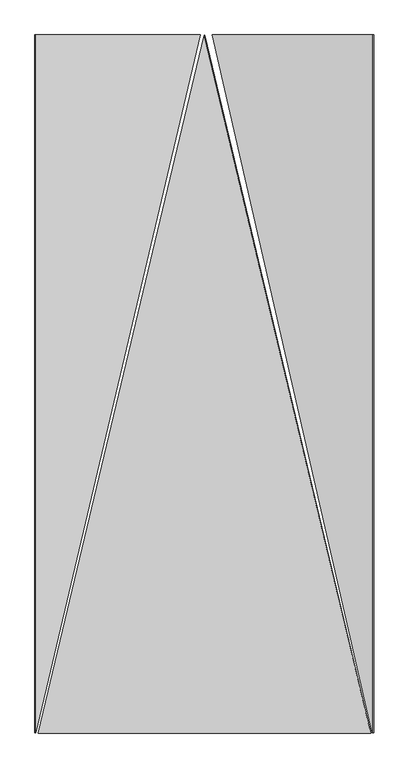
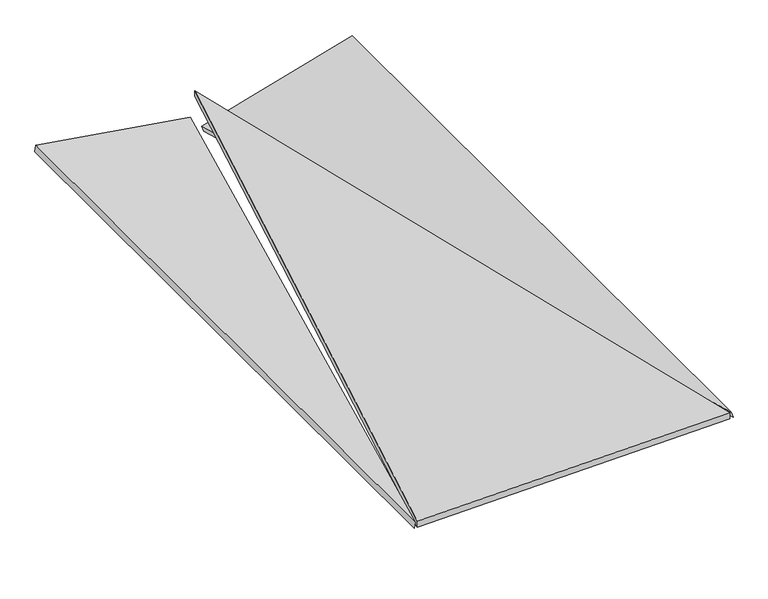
"""IFC4 building model written with IfcOpenShell, lengths in millimetres: proxy geometry, panel sufitowy 6 : panel sufitowy 6."""

from ifc_helpers import new_model, si_unit, frame, origin, place, context, project, spatial, polyline, outline, extrude, source, transform, mapped, element, save


def generic_models_667b148d(model_context):
    return source(origin(), model_context, "Body", "SweptSolid", [
        extrude(outline(polyline([(-900.9098917, 1e-07), (1006.1909889, 962.7191946), (1235.4098448, 0.0), (-900.9098917, 1e-07)])), frame((551.8753506, 1457.4151922, 1194.2927704), z_axis=(-0.017452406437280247, 0.0, 0.9998476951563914), x_axis=(-0.23158525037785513, -0.9728062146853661, -0.0040423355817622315)), (0.0, 0.0, 1.0), 20.0),
        extrude(outline(polyline([(-127.5, 0.0), (-127.5, -2079.0), (-622.5, 0.0), (-127.5, 0.0)])), frame((1387.7172487, 2335.0, 1241.8869), z_axis=(-0.2756373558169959, 0.0, 0.9612616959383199), x_axis=(0.9612616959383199, 0.0, 0.2756373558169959)), (0.0, 0.0, 1.0), 20.0),
        extrude(outline(polyline([(-127.5, 0.0), (-622.5, 0.0), (-127.5, 2079.0), (-127.5, 0.0)])), frame((129.379947, 2335.0, 1209.0616009), z_axis=(0.1564344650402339, 0.0, 0.9876883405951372), x_axis=(-0.9876883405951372, 0.0, 0.1564344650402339)), (0.0, 0.0, 1.0), 20.0),
    ])


if __name__ == "__main__":
    model = new_model("IFC4")
    model_context = context("Model", 3, world=origin())
    ifc_project = project(units=[si_unit("LENGTHUNIT", "METRE", prefix="MILLI")], contexts=[model_context])
    site = spatial("IfcSite", under=ifc_project)
    building = spatial("IfcBuilding", under=site)
    placement = place(None, origin())
    generic_models_shape = generic_models_667b148d(model_context)
    element("IfcBuildingElementProxy", 1, Name="panel sufitowy 6 : panel sufitowy 6", ObjectType="panel sufitowy 6 : panel sufitowy 6", at=placement, inside=building, context=model_context, shape_type="MappedRepresentation", body=[
        mapped(generic_models_shape, transform((0.0, 0.0, 0.0), x_axis=(1.0, 0.0, 0.0), y_axis=(0.0, 1.0, 0.0), z_axis=(0.0, 0.0, 1.0))),
    ])
    save(model, "model.ifc")
